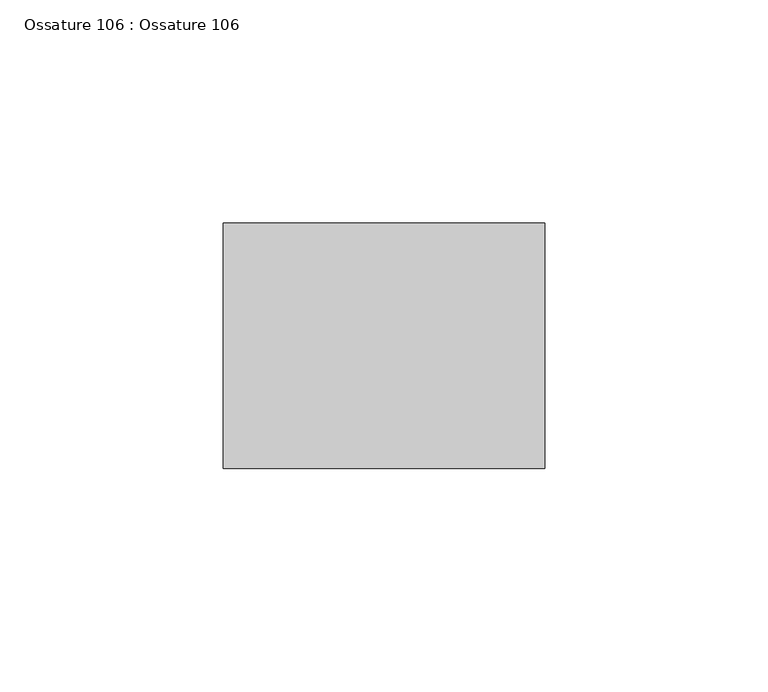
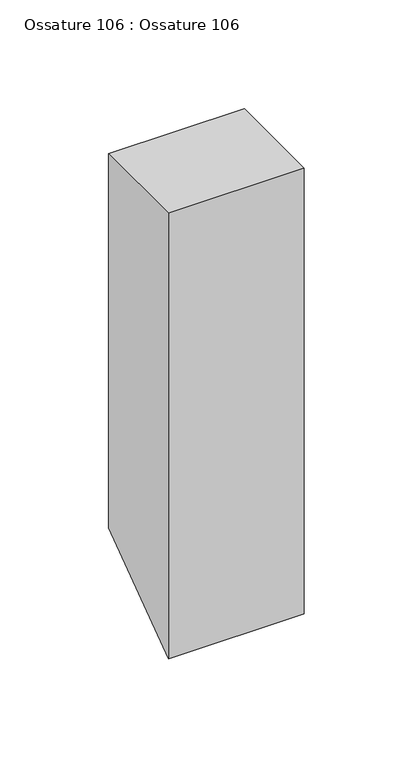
"""IFC4 building model written with IfcOpenShell, lengths in millimetres: beam geometry, Ossature 106 : Ossature 106."""

from ifc_helpers import new_model, si_unit, frame, origin, place, context, project, spatial, polyline, outline, extrude, source, transform, mapped, element, save


def ossature_106_ossature_106_15be8ef4(model_context):
    return source(origin(), model_context, "Body", "SweptSolid", [
        extrude(outline(polyline([(-351.8290062, 2321.8416167), (-351.8290062, 2111.8416167), (-406.8290062, 2071.8416167), (-406.8290062, 2321.8416167), (-351.8290062, 2321.8416167)])), frame((9985.2466393, 0.0, 0.0), z_axis=(1.0, 0.0, 0.0), x_axis=(0.0, 1.0, 0.0)), (0.0, 0.0, 1.0), 72.0),
    ])


if __name__ == "__main__":
    model = new_model("IFC4")
    model_context = context("Model", 3, world=origin())
    ifc_project = project(units=[si_unit("LENGTHUNIT", "METRE", prefix="MILLI")], contexts=[model_context])
    site = spatial("IfcSite", under=ifc_project)
    building = spatial("IfcBuilding", under=site)
    placement = place(None, origin())
    ossature_106_ossature_106_shape = ossature_106_ossature_106_15be8ef4(model_context)
    element("IfcBeam", 1, ObjectType="Ossature 106 : Ossature 106", at=placement, inside=building, context=model_context, shape_type="MappedRepresentation", body=[
        mapped(ossature_106_ossature_106_shape, transform((0.0, 0.0, 0.0), x_axis=(1.0, 0.0, 0.0), y_axis=(0.0, 1.0, 0.0), z_axis=(0.0, 0.0, 1.0))),
    ])
    save(model, "model.ifc")
